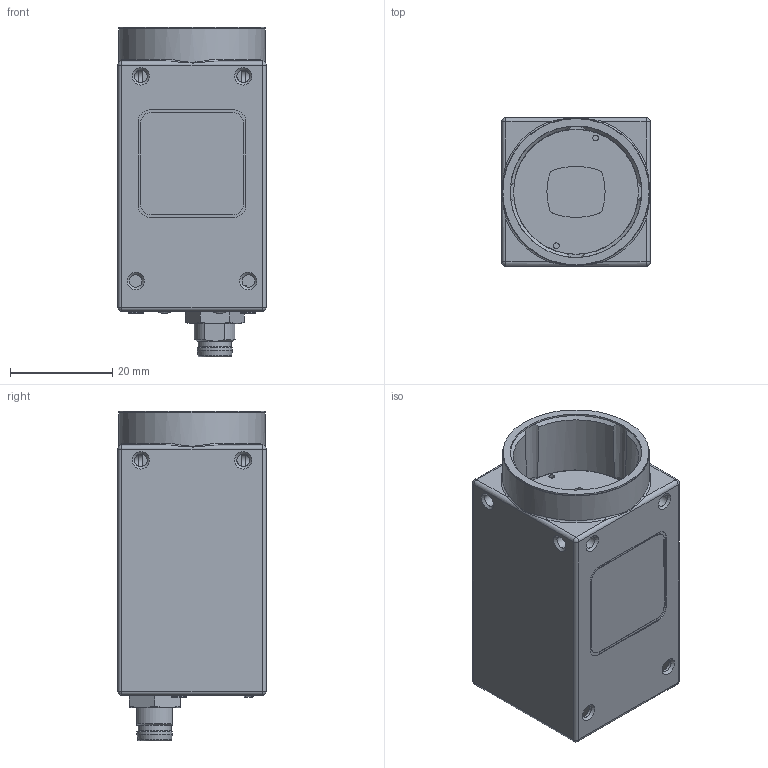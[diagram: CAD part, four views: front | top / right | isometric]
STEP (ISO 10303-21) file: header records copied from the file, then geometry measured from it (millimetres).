
FILE_DESCRIPTION( ( 'Unknown' ), '1' );
FILE_NAME( 'C:/Users/rih/Desktop/11182959_VCXG-15C.stp', '14.10.2014', ( 'Unknown' ), ( 'Unknown' ), 'PSStep 15.0.49', 'Unknown', ' ' );
FILE_SCHEMA( ( 'AUTOMOTIVE_DESIGN { 1 0 10303 214 1 1 1 1 }' ) );
Length unit declared in the file: millimetre
Products named in the file (7): 11080147
Bounding box: 29 x 29 x 64.4 mm (x, y, z)
Volume: 13627.8 mm3; surface area: 22972.4 mm2
Topology: 7 solids, 12 shells, 2240 faces, 5968 edges, 3874 vertices
Faces by surface type: plane 1298, cylinder 725, cone 72, torus 53, sphere 48, bspline 36, extrusion 8
Full cylindrical faces by diameter (mm): 0.217 x1, 0.6 x153, 1.1 x2, 1.4 x4, 1.567 x2, 1.6 x2, 1.9 x4, 2.459 x10, 3 x4, 6.5 x1, 6.9 x1, 8.4 x1, 9 x1, 9.4 x1, 19 x1, 24.4 x1, 25.7 x1, 26 x1, 28.6 x1, 28.7 x1
Entity records: 88145 total; most frequent: CARTESIAN_POINT 16194, DIRECTION 11099, ORIENTED_EDGE 10970, EDGE_CURVE 5485, AXIS2_PLACEMENT_3D 3837, VERTEX_POINT 3666, VECTOR 3425, LINE 3417
